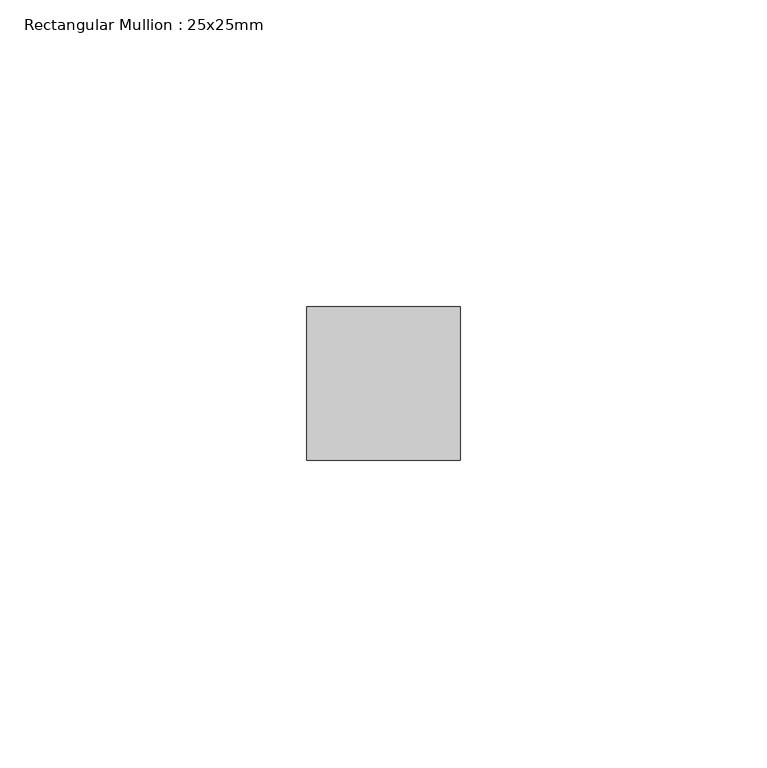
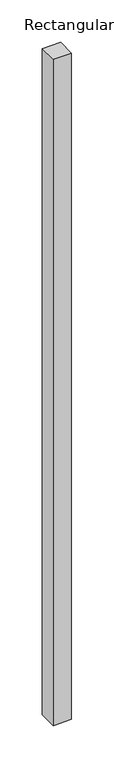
"""IFC4 building model written with IfcOpenShell, lengths in millimetres: member geometry, Rectangular Mullion : 25x25mm."""

from ifc_helpers import new_model, si_unit, frame, origin, place, context, project, spatial, polyline, outline, extrude, source, transform, mapped, element, save


def rectangular_mullion_25x25mm_22961775(model_context):
    return source(origin(), model_context, "Body", "SweptSolid", [
        extrude(outline(polyline([(12.5, 0.5), (12.5, -24.5), (-12.5, -24.5), (-12.5, 0.5), (12.5, 0.5)])), frame((0.0, 0.0, -957.5), z_axis=(0.0, 0.0, 1.0), x_axis=(1.0, 0.0, 0.0)), (0.0, 0.0, 1.0), 957.5),
    ])


if __name__ == "__main__":
    model = new_model("IFC4")
    model_context = context("Model", 3, world=origin())
    ifc_project = project(units=[si_unit("LENGTHUNIT", "METRE", prefix="MILLI")], contexts=[model_context])
    site = spatial("IfcSite", under=ifc_project)
    building = spatial("IfcBuilding", under=site)
    placement = place(None, origin())
    rectangular_mullion_25x25mm_shape = rectangular_mullion_25x25mm_22961775(model_context)
    element("IfcMember", 1, ObjectType="Rectangular Mullion : 25x25mm", at=placement, inside=building, context=model_context, shape_type="MappedRepresentation", body=[
        mapped(rectangular_mullion_25x25mm_shape, transform((0.0, 0.0, 0.0), x_axis=(1.0, 0.0, 0.0), y_axis=(0.0, 1.0, 0.0), z_axis=(0.0, 0.0, 1.0))),
    ])
    save(model, "model.ifc")
